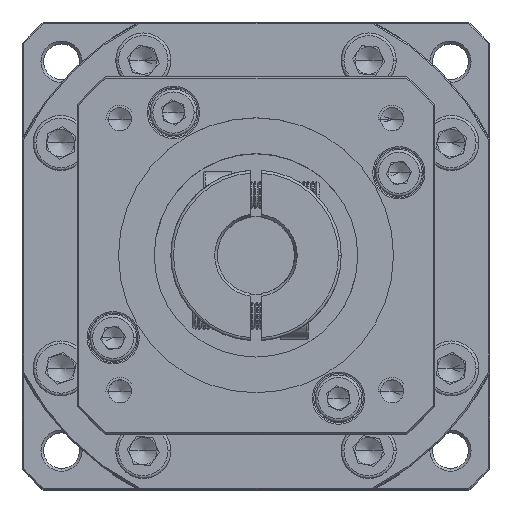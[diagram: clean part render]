
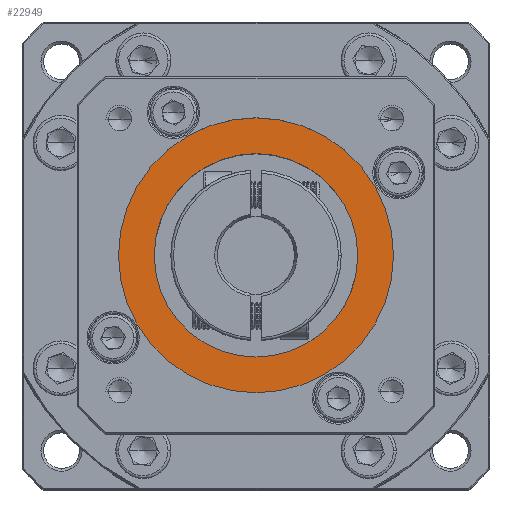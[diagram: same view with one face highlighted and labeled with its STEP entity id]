
A CAD part, top view. The second image highlights one B-rep face of the part: STEP entity #22949.
In plain terms, the highlighted planar face has unit normal (0, 0, 1).
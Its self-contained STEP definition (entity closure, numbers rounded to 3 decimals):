
#2251 = CIRCLE ( 'NONE', #22395, 25. ) ;
#4680 = PLANE ( 'NONE',  #108358 ) ;
#4869 = CARTESIAN_POINT ( 'NONE',  ( -88.368, 40.513, 12.617 ) ) ;
#4940 = DIRECTION ( 'NONE',  ( 0., 0., -1. ) ) ;
#10932 = ORIENTED_EDGE ( 'NONE', *, *, #115920, .T. ) ;
#12293 = AXIS2_PLACEMENT_3D ( 'NONE', #66773, #14615, #46268 ) ;
#14615 = DIRECTION ( 'NONE',  ( 0., 0., -1. ) ) ;
#14725 = CIRCLE ( 'NONE', #12293, 18.5 ) ;
#19616 = CIRCLE ( 'NONE', #56541, 18.5 ) ;
#21334 = ORIENTED_EDGE ( 'NONE', *, *, #54093, .T. ) ;
#22395 = AXIS2_PLACEMENT_3D ( 'NONE', #102355, #41267, #124729 ) ;
#22949 = ADVANCED_FACE ( 'NONE', ( #98014, #109360 ), #4680, .T. ) ;
#24879 = CARTESIAN_POINT ( 'NONE',  ( -69.868, 40.513, 12.617 ) ) ;
#37633 = EDGE_LOOP ( 'NONE', ( #42660, #10932 ) ) ;
#39689 = ORIENTED_EDGE ( 'NONE', *, *, #85356, .T. ) ;
#41267 = DIRECTION ( 'NONE',  ( 0., 0., 1. ) ) ;
#41739 = CARTESIAN_POINT ( 'NONE',  ( -51.368, 40.513, 12.617 ) ) ;
#42660 = ORIENTED_EDGE ( 'NONE', *, *, #48955, .T. ) ;
#46268 = DIRECTION ( 'NONE',  ( 1., 0., 0. ) ) ;
#48955 = EDGE_CURVE ( 'NONE', #68520, #130925, #19616, .T. ) ;
#54093 = EDGE_CURVE ( 'NONE', #68778, #104847, #2251, .T. ) ;
#54958 = CIRCLE ( 'NONE', #99407, 25. ) ;
#55759 = CARTESIAN_POINT ( 'NONE',  ( -94.868, 40.513, 12.617 ) ) ;
#56541 = AXIS2_PLACEMENT_3D ( 'NONE', #67578, #4940, #78043 ) ;
#56822 = DIRECTION ( 'NONE',  ( 0., 0., 1. ) ) ;
#66773 = CARTESIAN_POINT ( 'NONE',  ( -69.868, 40.513, 12.617 ) ) ;
#67578 = CARTESIAN_POINT ( 'NONE',  ( -69.868, 40.513, 12.617 ) ) ;
#68520 = VERTEX_POINT ( 'NONE', #41739 ) ;
#68778 = VERTEX_POINT ( 'NONE', #55759 ) ;
#78043 = DIRECTION ( 'NONE',  ( 1., 0., 0. ) ) ;
#80951 = DIRECTION ( 'NONE',  ( 1., 0., 0. ) ) ;
#81406 = CARTESIAN_POINT ( 'NONE',  ( -69.868, 40.513, 12.617 ) ) ;
#85356 = EDGE_CURVE ( 'NONE', #104847, #68778, #54958, .T. ) ;
#94769 = CARTESIAN_POINT ( 'NONE',  ( -44.868, 40.513, 12.617 ) ) ;
#98014 = FACE_OUTER_BOUND ( 'NONE', #113859, .T. ) ;
#99407 = AXIS2_PLACEMENT_3D ( 'NONE', #81406, #134858, #80951 ) ;
#102355 = CARTESIAN_POINT ( 'NONE',  ( -69.868, 40.513, 12.617 ) ) ;
#104847 = VERTEX_POINT ( 'NONE', #94769 ) ;
#108358 = AXIS2_PLACEMENT_3D ( 'NONE', #24879, #56822, #128997 ) ;
#109360 = FACE_BOUND ( 'NONE', #37633, .T. ) ;
#113859 = EDGE_LOOP ( 'NONE', ( #39689, #21334 ) ) ;
#115920 = EDGE_CURVE ( 'NONE', #130925, #68520, #14725, .T. ) ;
#124729 = DIRECTION ( 'NONE',  ( 1., 0., 0. ) ) ;
#128997 = DIRECTION ( 'NONE',  ( 1., 0., 0. ) ) ;
#130925 = VERTEX_POINT ( 'NONE', #4869 ) ;
#134858 = DIRECTION ( 'NONE',  ( 0., 0., 1. ) ) ;
